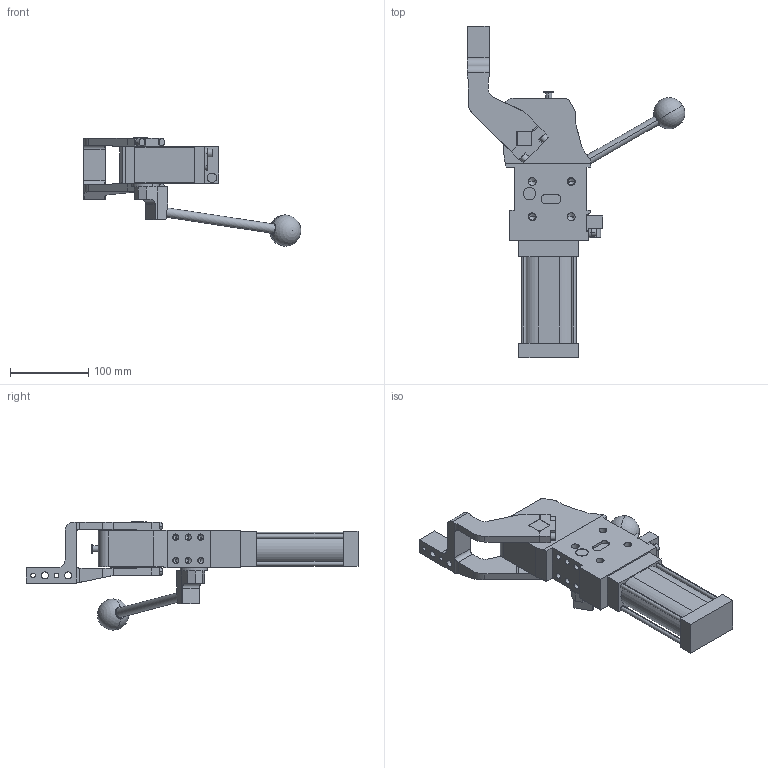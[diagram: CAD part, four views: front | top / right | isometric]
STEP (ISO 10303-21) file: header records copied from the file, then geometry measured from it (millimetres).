
FILE_DESCRIPTION (( 'STEP AP214' ), '1' );
FILE_NAME ('cplm50lbh3di1g_107.STEP', '2023-01-26T13:56:08', ( '' ), ( '' ), 'SwSTEP 2.0', 'SolidWorks 2022', '' );
FILE_SCHEMA (( 'AUTOMOTIVE_DESIGN' ));
Length unit declared in the file: millimetre
Products named in the file (5): leva_sx_offset_45_cpl50; comando_manuale_cplm_50; cplm50lbh3di1g_107; meccanica_cplm_50; blocchetto_VEP_0
Assembly tree (4 placements, depth 2):
  cplm50lbh3di1g_107
    meccanica_cplm_50
    blocchetto_VEP_0
    leva_sx_offset_45_cpl50
    comando_manuale_cplm_50
Bounding box: 277.96 x 424.5 x 138.5 mm (x, y, z)
Volume: 1483582.8 mm3; surface area: 184927.1 mm2
Topology: 4 solids, 4 shells, 433 faces, 1114 edges, 695 vertices
Faces by surface type: plane 214, cylinder 167, cone 50, sphere 2
Entity records: 14434 total; most frequent: CARTESIAN_POINT 2298, DIRECTION 2278, ORIENTED_EDGE 2126, EDGE_CURVE 1063, AXIS2_PLACEMENT_3D 790, LINE 698, VECTOR 698, VERTEX_POINT 692
